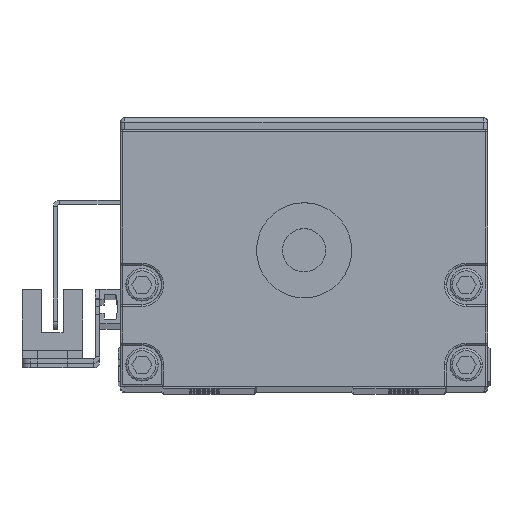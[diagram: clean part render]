
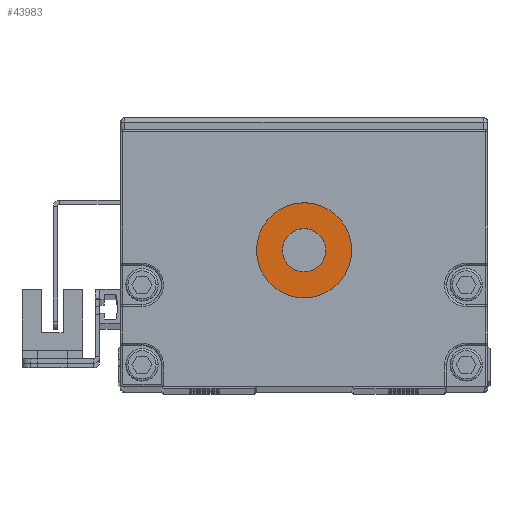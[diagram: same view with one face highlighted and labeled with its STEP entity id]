
A CAD part, top view. The second image highlights one B-rep face of the part: STEP entity #43983.
In plain terms, the highlighted planar face has unit normal (0, 0, 1).
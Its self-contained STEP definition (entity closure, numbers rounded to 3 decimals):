
#1878 = DIRECTION ( 'NONE',  ( 1., 0., 0. ) ) ;
#2076 = CIRCLE ( 'NONE', #37889, 5. ) ;
#4771 = VERTEX_POINT ( 'NONE', #24649 ) ;
#6153 = FACE_BOUND ( 'NONE', #26893, .T. ) ;
#8227 = VERTEX_POINT ( 'NONE', #32904 ) ;
#9967 = CIRCLE ( 'NONE', #12923, 5. ) ;
#12532 = AXIS2_PLACEMENT_3D ( 'NONE', #22810, #14107, #1878 ) ;
#12923 = AXIS2_PLACEMENT_3D ( 'NONE', #31631, #27561, #22915 ) ;
#14107 = DIRECTION ( 'NONE',  ( 0., 0., 1. ) ) ;
#14736 = CIRCLE ( 'NONE', #37822, 11. ) ;
#15143 = ORIENTED_EDGE ( 'NONE', *, *, #23203, .T. ) ;
#16531 = PLANE ( 'NONE',  #45605 ) ;
#22810 = CARTESIAN_POINT ( 'NONE',  ( 0., 32., 749. ) ) ;
#22915 = DIRECTION ( 'NONE',  ( 1., 0., 0. ) ) ;
#23203 = EDGE_CURVE ( 'NONE', #32563, #39506, #14736, .T. ) ;
#24649 = CARTESIAN_POINT ( 'NONE',  ( -5., 32., 749. ) ) ;
#25131 = DIRECTION ( 'NONE',  ( 1., 0., 0. ) ) ;
#25685 = ORIENTED_EDGE ( 'NONE', *, *, #51289, .F. ) ;
#26893 = EDGE_LOOP ( 'NONE', ( #40029, #25685 ) ) ;
#27561 = DIRECTION ( 'NONE',  ( 0., 0., 1. ) ) ;
#30272 = ORIENTED_EDGE ( 'NONE', *, *, #50647, .T. ) ;
#31631 = CARTESIAN_POINT ( 'NONE',  ( 0., 32., 749. ) ) ;
#32563 = VERTEX_POINT ( 'NONE', #54651 ) ;
#32904 = CARTESIAN_POINT ( 'NONE',  ( 5., 32., 749. ) ) ;
#33338 = CARTESIAN_POINT ( 'NONE',  ( 0., 32., 749. ) ) ;
#33532 = CARTESIAN_POINT ( 'NONE',  ( -11., 32., 749. ) ) ;
#33546 = CIRCLE ( 'NONE', #12532, 11. ) ;
#37822 = AXIS2_PLACEMENT_3D ( 'NONE', #33338, #45602, #41686 ) ;
#37889 = AXIS2_PLACEMENT_3D ( 'NONE', #38306, #42754, #25131 ) ;
#37920 = CARTESIAN_POINT ( 'NONE',  ( 0., 32., 749. ) ) ;
#38306 = CARTESIAN_POINT ( 'NONE',  ( 0., 32., 749. ) ) ;
#38521 = EDGE_CURVE ( 'NONE', #4771, #8227, #2076, .T. ) ;
#39506 = VERTEX_POINT ( 'NONE', #33532 ) ;
#40029 = ORIENTED_EDGE ( 'NONE', *, *, #38521, .F. ) ;
#40624 = EDGE_LOOP ( 'NONE', ( #15143, #30272 ) ) ;
#41686 = DIRECTION ( 'NONE',  ( 1., 0., 0. ) ) ;
#42754 = DIRECTION ( 'NONE',  ( 0., 0., 1. ) ) ;
#43983 = ADVANCED_FACE ( 'NONE', ( #49974, #6153 ), #16531, .T. ) ;
#45602 = DIRECTION ( 'NONE',  ( 0., 0., 1. ) ) ;
#45605 = AXIS2_PLACEMENT_3D ( 'NONE', #37920, #49964, #46264 ) ;
#46264 = DIRECTION ( 'NONE',  ( 1., 0., 0. ) ) ;
#49964 = DIRECTION ( 'NONE',  ( 0., 0., 1. ) ) ;
#49974 = FACE_OUTER_BOUND ( 'NONE', #40624, .T. ) ;
#50647 = EDGE_CURVE ( 'NONE', #39506, #32563, #33546, .T. ) ;
#51289 = EDGE_CURVE ( 'NONE', #8227, #4771, #9967, .T. ) ;
#54651 = CARTESIAN_POINT ( 'NONE',  ( 11., 32., 749. ) ) ;
